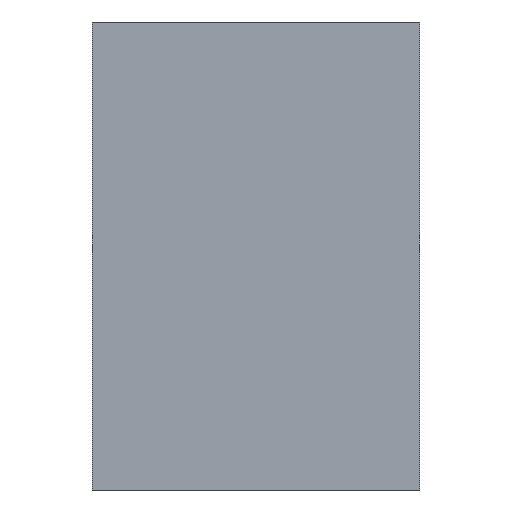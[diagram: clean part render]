
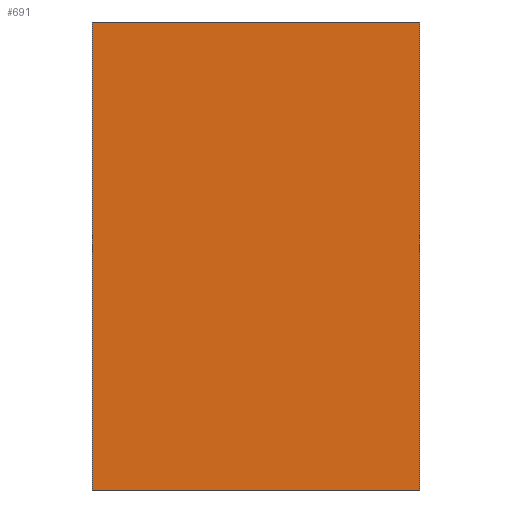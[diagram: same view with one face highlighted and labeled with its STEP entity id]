
A CAD part, left-side view. The second image highlights one B-rep face of the part: STEP entity #691.
In plain terms, the highlighted planar face has unit normal (-1, 0, 0).
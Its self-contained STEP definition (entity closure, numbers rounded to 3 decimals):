
#44 = PLANE('',#45);
#45 = AXIS2_PLACEMENT_3D('',#46,#47,#48);
#46 = CARTESIAN_POINT('',(-0.417,0.175,-0.25));
#47 = DIRECTION('',(-0.,0.,1.));
#48 = DIRECTION('',(0.,-1.,0.));
#236 = VERTEX_POINT('',#237);
#237 = CARTESIAN_POINT('',(-0.5,0.35,-0.25));
#251 = PLANE('',#252);
#252 = AXIS2_PLACEMENT_3D('',#253,#254,#255);
#253 = CARTESIAN_POINT('',(-0.3,0.35,-0.25));
#254 = DIRECTION('',(0.,-1.,0.));
#255 = DIRECTION('',(-1.,0.,0.));
#263 = EDGE_CURVE('',#236,#264,#266,.T.);
#264 = VERTEX_POINT('',#265);
#265 = CARTESIAN_POINT('',(-0.5,0.,-0.25));
#266 = SURFACE_CURVE('',#267,(#271,#278),.PCURVE_S1.);
#267 = LINE('',#268,#269);
#268 = CARTESIAN_POINT('',(-0.5,0.35,-0.25));
#269 = VECTOR('',#270,1.);
#270 = DIRECTION('',(0.,-1.,0.));
#271 = PCURVE('',#44,#272);
#272 = DEFINITIONAL_REPRESENTATION('',(#273),#277);
#273 = LINE('',#274,#275);
#274 = CARTESIAN_POINT('',(-0.175,-0.083));
#275 = VECTOR('',#276,1.);
#276 = DIRECTION('',(1.,0.));
#277 = ( GEOMETRIC_REPRESENTATION_CONTEXT(2) 
PARAMETRIC_REPRESENTATION_CONTEXT() REPRESENTATION_CONTEXT('2D SPACE',''
  ) );
#278 = PCURVE('',#279,#284);
#279 = PLANE('',#280);
#280 = AXIS2_PLACEMENT_3D('',#281,#282,#283);
#281 = CARTESIAN_POINT('',(-0.5,0.35,-0.25));
#282 = DIRECTION('',(1.,0.,-0.));
#283 = DIRECTION('',(0.,-1.,0.));
#284 = DEFINITIONAL_REPRESENTATION('',(#285),#289);
#285 = LINE('',#286,#287);
#286 = CARTESIAN_POINT('',(0.,0.));
#287 = VECTOR('',#288,1.);
#288 = DIRECTION('',(1.,0.));
#289 = ( GEOMETRIC_REPRESENTATION_CONTEXT(2) 
PARAMETRIC_REPRESENTATION_CONTEXT() REPRESENTATION_CONTEXT('2D SPACE',''
  ) );
#307 = PLANE('',#308);
#308 = AXIS2_PLACEMENT_3D('',#309,#310,#311);
#309 = CARTESIAN_POINT('',(-0.5,0.,-0.25));
#310 = DIRECTION('',(0.,1.,0.));
#311 = DIRECTION('',(1.,0.,0.));
#643 = VERTEX_POINT('',#644);
#644 = CARTESIAN_POINT('',(-0.5,0.35,0.25));
#658 = PLANE('',#659);
#659 = AXIS2_PLACEMENT_3D('',#660,#661,#662);
#660 = CARTESIAN_POINT('',(-0.417,0.175,0.25));
#661 = DIRECTION('',(-0.,0.,1.));
#662 = DIRECTION('',(0.,-1.,0.));
#670 = EDGE_CURVE('',#236,#643,#671,.T.);
#671 = SURFACE_CURVE('',#672,(#676,#683),.PCURVE_S1.);
#672 = LINE('',#673,#674);
#673 = CARTESIAN_POINT('',(-0.5,0.35,-0.25));
#674 = VECTOR('',#675,1.);
#675 = DIRECTION('',(0.,0.,1.));
#676 = PCURVE('',#251,#677);
#677 = DEFINITIONAL_REPRESENTATION('',(#678),#682);
#678 = LINE('',#679,#680);
#679 = CARTESIAN_POINT('',(0.2,0.));
#680 = VECTOR('',#681,1.);
#681 = DIRECTION('',(0.,-1.));
#682 = ( GEOMETRIC_REPRESENTATION_CONTEXT(2) 
PARAMETRIC_REPRESENTATION_CONTEXT() REPRESENTATION_CONTEXT('2D SPACE',''
  ) );
#683 = PCURVE('',#279,#684);
#684 = DEFINITIONAL_REPRESENTATION('',(#685),#689);
#685 = LINE('',#686,#687);
#686 = CARTESIAN_POINT('',(0.,0.));
#687 = VECTOR('',#688,1.);
#688 = DIRECTION('',(0.,-1.));
#689 = ( GEOMETRIC_REPRESENTATION_CONTEXT(2) 
PARAMETRIC_REPRESENTATION_CONTEXT() REPRESENTATION_CONTEXT('2D SPACE',''
  ) );
#691 = ADVANCED_FACE('',(#692),#279,.F.);
#692 = FACE_BOUND('',#693,.F.);
#693 = EDGE_LOOP('',(#694,#695,#718,#739));
#694 = ORIENTED_EDGE('',*,*,#670,.T.);
#695 = ORIENTED_EDGE('',*,*,#696,.T.);
#696 = EDGE_CURVE('',#643,#697,#699,.T.);
#697 = VERTEX_POINT('',#698);
#698 = CARTESIAN_POINT('',(-0.5,0.,0.25));
#699 = SURFACE_CURVE('',#700,(#704,#711),.PCURVE_S1.);
#700 = LINE('',#701,#702);
#701 = CARTESIAN_POINT('',(-0.5,0.35,0.25));
#702 = VECTOR('',#703,1.);
#703 = DIRECTION('',(0.,-1.,0.));
#704 = PCURVE('',#279,#705);
#705 = DEFINITIONAL_REPRESENTATION('',(#706),#710);
#706 = LINE('',#707,#708);
#707 = CARTESIAN_POINT('',(0.,-0.5));
#708 = VECTOR('',#709,1.);
#709 = DIRECTION('',(1.,0.));
#710 = ( GEOMETRIC_REPRESENTATION_CONTEXT(2) 
PARAMETRIC_REPRESENTATION_CONTEXT() REPRESENTATION_CONTEXT('2D SPACE',''
  ) );
#711 = PCURVE('',#658,#712);
#712 = DEFINITIONAL_REPRESENTATION('',(#713),#717);
#713 = LINE('',#714,#715);
#714 = CARTESIAN_POINT('',(-0.175,-0.083));
#715 = VECTOR('',#716,1.);
#716 = DIRECTION('',(1.,0.));
#717 = ( GEOMETRIC_REPRESENTATION_CONTEXT(2) 
PARAMETRIC_REPRESENTATION_CONTEXT() REPRESENTATION_CONTEXT('2D SPACE',''
  ) );
#718 = ORIENTED_EDGE('',*,*,#719,.F.);
#719 = EDGE_CURVE('',#264,#697,#720,.T.);
#720 = SURFACE_CURVE('',#721,(#725,#732),.PCURVE_S1.);
#721 = LINE('',#722,#723);
#722 = CARTESIAN_POINT('',(-0.5,0.,-0.25));
#723 = VECTOR('',#724,1.);
#724 = DIRECTION('',(0.,0.,1.));
#725 = PCURVE('',#279,#726);
#726 = DEFINITIONAL_REPRESENTATION('',(#727),#731);
#727 = LINE('',#728,#729);
#728 = CARTESIAN_POINT('',(0.35,0.));
#729 = VECTOR('',#730,1.);
#730 = DIRECTION('',(0.,-1.));
#731 = ( GEOMETRIC_REPRESENTATION_CONTEXT(2) 
PARAMETRIC_REPRESENTATION_CONTEXT() REPRESENTATION_CONTEXT('2D SPACE',''
  ) );
#732 = PCURVE('',#307,#733);
#733 = DEFINITIONAL_REPRESENTATION('',(#734),#738);
#734 = LINE('',#735,#736);
#735 = CARTESIAN_POINT('',(0.,0.));
#736 = VECTOR('',#737,1.);
#737 = DIRECTION('',(0.,-1.));
#738 = ( GEOMETRIC_REPRESENTATION_CONTEXT(2) 
PARAMETRIC_REPRESENTATION_CONTEXT() REPRESENTATION_CONTEXT('2D SPACE',''
  ) );
#739 = ORIENTED_EDGE('',*,*,#263,.F.);
